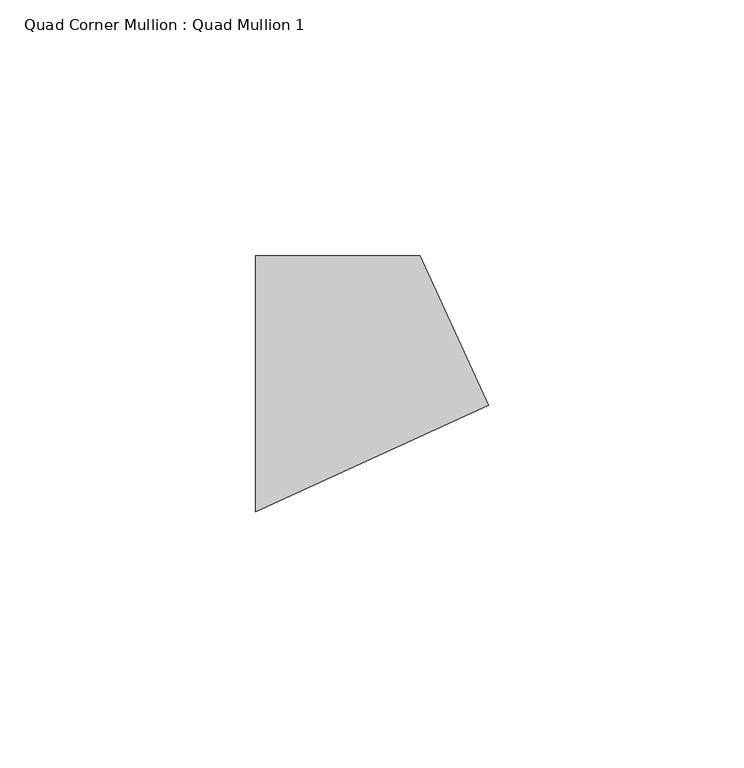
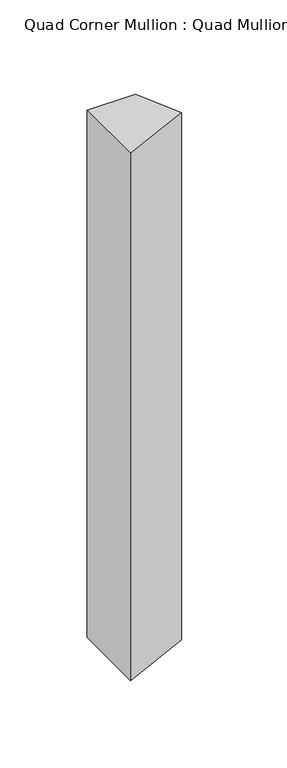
"""IFC4 building model written with IfcOpenShell, lengths in millimetres: member geometry, Quad Corner Mullion : Quad Mullion 1."""

from ifc_helpers import new_model, si_unit, frame, origin, place, context, project, spatial, polyline, outline, extrude, source, transform, mapped, element, save


def quad_corner_mullion_quad_mullion_1_1c0c412d(model_context):
    return source(origin(), model_context, "Body", "SweptSolid", [
        extrude(outline(polyline([(29.4125559, -4.1926582), (-16.0523154, -25.0), (-16.0523154, 25.0), (16.0523154, 25.0), (29.4125559, -4.1926582)])), frame((0.0, 0.0, -368.5617662), z_axis=(0.0, 0.0, 1.0), x_axis=(1.0, 0.0, 0.0)), (0.0, 0.0, 1.0), 368.5617662),
    ])


if __name__ == "__main__":
    model = new_model("IFC4")
    model_context = context("Model", 3, world=origin())
    ifc_project = project(units=[si_unit("LENGTHUNIT", "METRE", prefix="MILLI")], contexts=[model_context])
    site = spatial("IfcSite", under=ifc_project)
    building = spatial("IfcBuilding", under=site)
    placement = place(None, origin())
    quad_corner_mullion_quad_mullion_1_shape = quad_corner_mullion_quad_mullion_1_1c0c412d(model_context)
    element("IfcMember", 1, ObjectType="Quad Corner Mullion : Quad Mullion 1", at=placement, inside=building, context=model_context, shape_type="MappedRepresentation", body=[
        mapped(quad_corner_mullion_quad_mullion_1_shape, transform((0.0, 0.0, 0.0), x_axis=(1.0, 0.0, 0.0), y_axis=(0.0, 1.0, 0.0), z_axis=(0.0, 0.0, 1.0))),
    ])
    save(model, "model.ifc")
